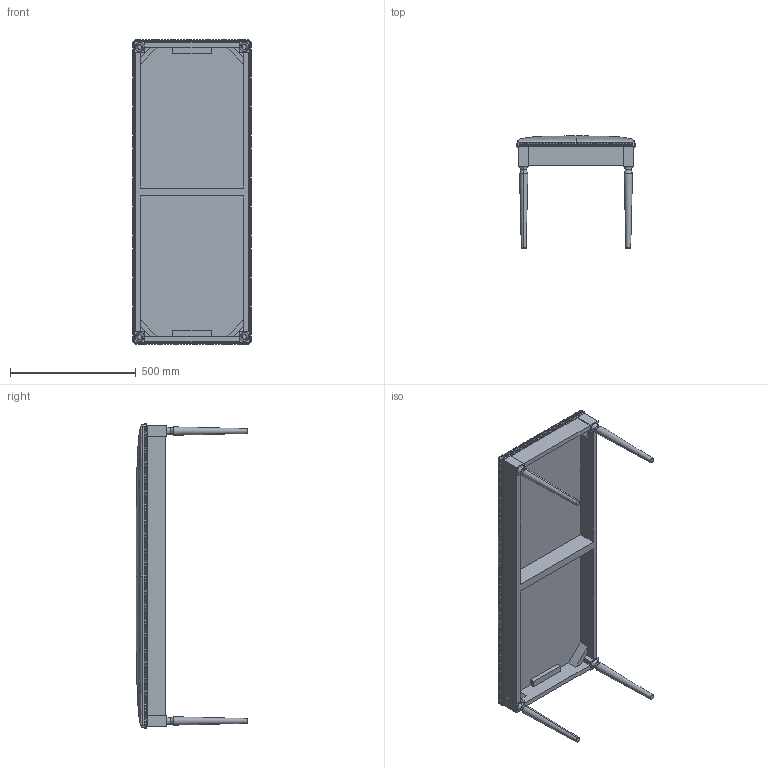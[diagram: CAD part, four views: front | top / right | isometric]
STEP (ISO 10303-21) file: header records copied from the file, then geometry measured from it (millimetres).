
FILE_DESCRIPTION (( 'STEP AP214' ), '1' );
FILE_NAME ('ASM_JL BENCH_8-NOV-21.STEP', '2021-11-08T14:37:21', ( '' ), ( '' ), 'SwSTEP 2.0', 'SolidWorks 2021', '' );
FILE_SCHEMA (( 'AUTOMOTIVE_DESIGN' ));
Length unit declared in the file: millimetre
Products named in the file (1): ASM_JL BENCH_8-NOV-21
Bounding box: 474.95 x 444.5 x 1211.55 mm (x, y, z)
Volume: 28237099.6 mm3; surface area: 1868927.9 mm2
Topology: 1 solids, 1 shells, 638 faces, 2194 edges, 1039 vertices
Faces by surface type: bspline 638
Entity records: 34414 total; most frequent: CARTESIAN_POINT 25790, ORIENTED_EDGE 3340, EDGE_CURVE 1670, VERTEX_POINT 1039, EDGE_LOOP 643, FACE_OUTER_BOUND 638, ADVANCED_FACE 638, B_SPLINE_CURVE_WITH_KNOTS 520
